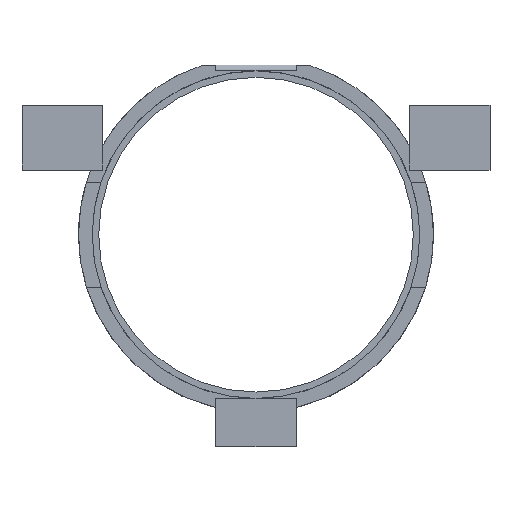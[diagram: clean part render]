
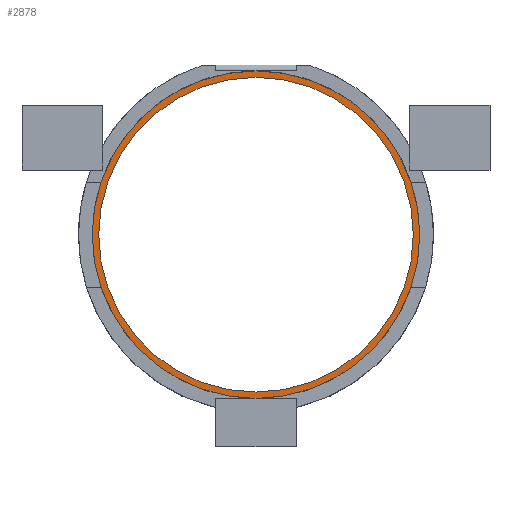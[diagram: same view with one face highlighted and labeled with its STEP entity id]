
A CAD part, top view. The second image highlights one B-rep face of the part: STEP entity #2878.
In plain terms, the highlighted planar face has unit normal (0, 0, 1).
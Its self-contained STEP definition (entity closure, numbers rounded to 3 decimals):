
#765 = CYLINDRICAL_SURFACE('',#766,20.3);
#766 = AXIS2_PLACEMENT_3D('',#767,#768,#769);
#767 = CARTESIAN_POINT('',(0.,43.,4.3));
#768 = DIRECTION('',(0.,-0.,-1.));
#769 = DIRECTION('',(0.,1.,0.));
#2001 = CYLINDRICAL_SURFACE('',#2002,19.5);
#2002 = AXIS2_PLACEMENT_3D('',#2003,#2004,#2005);
#2003 = CARTESIAN_POINT('',(0.,43.,3.5));
#2004 = DIRECTION('',(0.,-0.,-1.));
#2005 = DIRECTION('',(0.,1.,0.));
#2397 = VERTEX_POINT('',#2398);
#2398 = CARTESIAN_POINT('',(0.,63.3,4.3));
#2419 = EDGE_CURVE('',#2397,#2397,#2420,.T.);
#2420 = SURFACE_CURVE('',#2421,(#2426,#2433),.PCURVE_S1.);
#2421 = CIRCLE('',#2422,20.3);
#2422 = AXIS2_PLACEMENT_3D('',#2423,#2424,#2425);
#2423 = CARTESIAN_POINT('',(0.,43.,4.3));
#2424 = DIRECTION('',(0.,-0.,1.));
#2425 = DIRECTION('',(0.,1.,0.));
#2426 = PCURVE('',#765,#2427);
#2427 = DEFINITIONAL_REPRESENTATION('',(#2428),#2432);
#2428 = LINE('',#2429,#2430);
#2429 = CARTESIAN_POINT('',(-0.,0.));
#2430 = VECTOR('',#2431,1.);
#2431 = DIRECTION('',(-1.,0.));
#2432 = ( GEOMETRIC_REPRESENTATION_CONTEXT(2) 
PARAMETRIC_REPRESENTATION_CONTEXT() REPRESENTATION_CONTEXT('2D SPACE',''
  ) );
#2433 = PCURVE('',#2434,#2439);
#2434 = PLANE('',#2435);
#2435 = AXIS2_PLACEMENT_3D('',#2436,#2437,#2438);
#2436 = CARTESIAN_POINT('',(0.,43.,4.3));
#2437 = DIRECTION('',(0.,0.,1.));
#2438 = DIRECTION('',(0.,1.,0.));
#2439 = DEFINITIONAL_REPRESENTATION('',(#2440),#2444);
#2440 = CIRCLE('',#2441,20.3);
#2441 = AXIS2_PLACEMENT_2D('',#2442,#2443);
#2442 = CARTESIAN_POINT('',(0.,0.));
#2443 = DIRECTION('',(1.,0.));
#2444 = ( GEOMETRIC_REPRESENTATION_CONTEXT(2) 
PARAMETRIC_REPRESENTATION_CONTEXT() REPRESENTATION_CONTEXT('2D SPACE',''
  ) );
#2746 = VERTEX_POINT('',#2747);
#2747 = CARTESIAN_POINT('',(0.,62.5,4.3));
#2770 = EDGE_CURVE('',#2746,#2746,#2771,.T.);
#2771 = SURFACE_CURVE('',#2772,(#2777,#2784),.PCURVE_S1.);
#2772 = CIRCLE('',#2773,19.5);
#2773 = AXIS2_PLACEMENT_3D('',#2774,#2775,#2776);
#2774 = CARTESIAN_POINT('',(0.,43.,4.3));
#2775 = DIRECTION('',(0.,0.,-1.));
#2776 = DIRECTION('',(0.,1.,0.));
#2777 = PCURVE('',#2001,#2778);
#2778 = DEFINITIONAL_REPRESENTATION('',(#2779),#2783);
#2779 = LINE('',#2780,#2781);
#2780 = CARTESIAN_POINT('',(-6.283,-0.8));
#2781 = VECTOR('',#2782,1.);
#2782 = DIRECTION('',(1.,-0.));
#2783 = ( GEOMETRIC_REPRESENTATION_CONTEXT(2) 
PARAMETRIC_REPRESENTATION_CONTEXT() REPRESENTATION_CONTEXT('2D SPACE',''
  ) );
#2784 = PCURVE('',#2434,#2785);
#2785 = DEFINITIONAL_REPRESENTATION('',(#2786),#2794);
#2786 = ( BOUNDED_CURVE() B_SPLINE_CURVE(2,(#2787,#2788,#2789,#2790,
#2791,#2792,#2793),.UNSPECIFIED.,.T.,.F.) B_SPLINE_CURVE_WITH_KNOTS((1,2
    ,2,2,2,1),(-2.094,0.,2.094,4.189,
6.283,8.378),.UNSPECIFIED.) CURVE() 
GEOMETRIC_REPRESENTATION_ITEM() RATIONAL_B_SPLINE_CURVE((1.,0.5,1.,0.5,
1.,0.5,1.)) REPRESENTATION_ITEM('') );
#2787 = CARTESIAN_POINT('',(19.5,0.));
#2788 = CARTESIAN_POINT('',(19.5,-33.775));
#2789 = CARTESIAN_POINT('',(-9.75,-16.887));
#2790 = CARTESIAN_POINT('',(-39.,0.));
#2791 = CARTESIAN_POINT('',(-9.75,16.887));
#2792 = CARTESIAN_POINT('',(19.5,33.775));
#2793 = CARTESIAN_POINT('',(19.5,0.));
#2794 = ( GEOMETRIC_REPRESENTATION_CONTEXT(2) 
PARAMETRIC_REPRESENTATION_CONTEXT() REPRESENTATION_CONTEXT('2D SPACE',''
  ) );
#2878 = ADVANCED_FACE('',(#2879,#2882),#2434,.T.);
#2879 = FACE_BOUND('',#2880,.T.);
#2880 = EDGE_LOOP('',(#2881));
#2881 = ORIENTED_EDGE('',*,*,#2419,.T.);
#2882 = FACE_BOUND('',#2883,.T.);
#2883 = EDGE_LOOP('',(#2884));
#2884 = ORIENTED_EDGE('',*,*,#2770,.T.);
